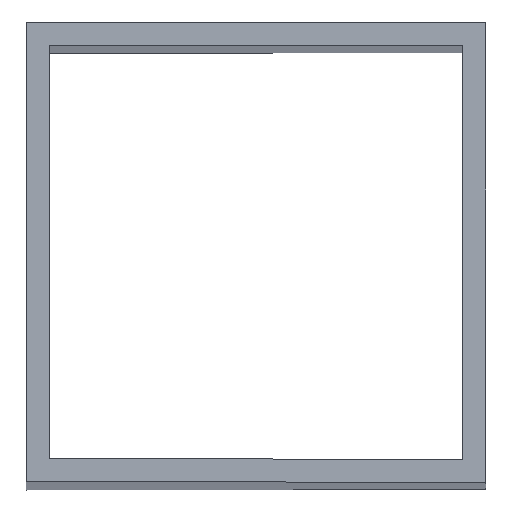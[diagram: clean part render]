
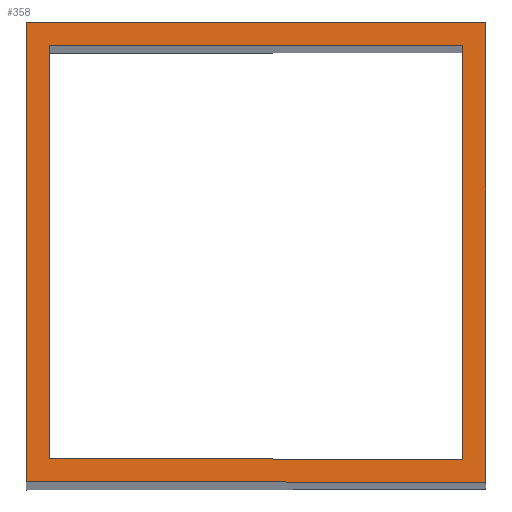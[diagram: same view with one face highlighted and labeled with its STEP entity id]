
A CAD part, top view. The second image highlights one B-rep face of the part: STEP entity #358.
In plain terms, the highlighted planar face has unit normal (0.707, 0, 0.707).
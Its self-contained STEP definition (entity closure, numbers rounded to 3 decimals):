
#32 = PLANE('',#33);
#33 = AXIS2_PLACEMENT_3D('',#34,#35,#36);
#34 = CARTESIAN_POINT('',(-40.,-40.,-40.));
#35 = DIRECTION('',(0.,1.,0.));
#36 = DIRECTION('',(1.,0.,0.));
#55 = VERTEX_POINT('',#56);
#56 = CARTESIAN_POINT('',(-40.,-40.,803.138));
#70 = PLANE('',#71);
#71 = AXIS2_PLACEMENT_3D('',#72,#73,#74);
#72 = CARTESIAN_POINT('',(-40.,40.,-40.));
#73 = DIRECTION('',(1.,0.,-0.));
#74 = DIRECTION('',(0.,-1.,0.));
#82 = EDGE_CURVE('',#83,#55,#85,.T.);
#83 = VERTEX_POINT('',#84);
#84 = CARTESIAN_POINT('',(40.,-40.,723.138));
#85 = SURFACE_CURVE('',#86,(#90,#96),.PCURVE_S1.);
#86 = LINE('',#87,#88);
#87 = CARTESIAN_POINT('',(381.569,-40.,381.569));
#88 = VECTOR('',#89,1.);
#89 = DIRECTION('',(-0.707,0.,0.707));
#90 = PCURVE('',#32,#91);
#91 = DEFINITIONAL_REPRESENTATION('',(#92),#95);
#92 = B_SPLINE_CURVE_WITH_KNOTS('',1,(#93,#94),.UNSPECIFIED.,.F.,.F.,(2,
    2),(483.052,596.189),.PIECEWISE_BEZIER_KNOTS.);
#93 = CARTESIAN_POINT('',(80.,-763.138));
#94 = CARTESIAN_POINT('',(0.,-843.138));
#95 = ( GEOMETRIC_REPRESENTATION_CONTEXT(2) 
PARAMETRIC_REPRESENTATION_CONTEXT() REPRESENTATION_CONTEXT('2D SPACE',''
  ) );
#96 = PCURVE('',#97,#102);
#97 = PLANE('',#98);
#98 = AXIS2_PLACEMENT_3D('',#99,#100,#101);
#99 = CARTESIAN_POINT('',(381.569,-0.,381.569));
#100 = DIRECTION('',(-0.707,0.,-0.707));
#101 = DIRECTION('',(-0.707,0.,0.707));
#102 = DEFINITIONAL_REPRESENTATION('',(#103),#106);
#103 = B_SPLINE_CURVE_WITH_KNOTS('',1,(#104,#105),.UNSPECIFIED.,.F.,.F.,
  (2,2),(483.052,596.189),.PIECEWISE_BEZIER_KNOTS.);
#104 = CARTESIAN_POINT('',(483.052,-40.));
#105 = CARTESIAN_POINT('',(596.189,-40.));
#106 = ( GEOMETRIC_REPRESENTATION_CONTEXT(2) 
PARAMETRIC_REPRESENTATION_CONTEXT() REPRESENTATION_CONTEXT('2D SPACE',''
  ) );
#122 = PLANE('',#123);
#123 = AXIS2_PLACEMENT_3D('',#124,#125,#126);
#124 = CARTESIAN_POINT('',(40.,-40.,-40.));
#125 = DIRECTION('',(-1.,0.,0.));
#126 = DIRECTION('',(0.,1.,0.));
#154 = PLANE('',#155);
#155 = AXIS2_PLACEMENT_3D('',#156,#157,#158);
#156 = CARTESIAN_POINT('',(40.,40.,-40.));
#157 = DIRECTION('',(0.,-1.,0.));
#158 = DIRECTION('',(-1.,0.,0.));
#225 = PLANE('',#226);
#226 = AXIS2_PLACEMENT_3D('',#227,#228,#229);
#227 = CARTESIAN_POINT('',(-36.,-36.,-40.));
#228 = DIRECTION('',(0.,1.,0.));
#229 = DIRECTION('',(1.,0.,0.));
#251 = PLANE('',#252);
#252 = AXIS2_PLACEMENT_3D('',#253,#254,#255);
#253 = CARTESIAN_POINT('',(-36.,36.,-40.));
#254 = DIRECTION('',(1.,0.,-0.));
#255 = DIRECTION('',(0.,-1.,0.));
#277 = PLANE('',#278);
#278 = AXIS2_PLACEMENT_3D('',#279,#280,#281);
#279 = CARTESIAN_POINT('',(36.,36.,-40.));
#280 = DIRECTION('',(0.,-1.,0.));
#281 = DIRECTION('',(-1.,0.,0.));
#301 = PLANE('',#302);
#302 = AXIS2_PLACEMENT_3D('',#303,#304,#305);
#303 = CARTESIAN_POINT('',(36.,-36.,-40.));
#304 = DIRECTION('',(-1.,0.,0.));
#305 = DIRECTION('',(0.,1.,0.));
#317 = EDGE_CURVE('',#318,#83,#320,.T.);
#318 = VERTEX_POINT('',#319);
#319 = CARTESIAN_POINT('',(40.,40.,723.138));
#320 = SURFACE_CURVE('',#321,(#325,#331),.PCURVE_S1.);
#321 = LINE('',#322,#323);
#322 = CARTESIAN_POINT('',(40.,-20.,723.138));
#323 = VECTOR('',#324,1.);
#324 = DIRECTION('',(-0.,-1.,0.));
#325 = PCURVE('',#122,#326);
#326 = DEFINITIONAL_REPRESENTATION('',(#327),#330);
#327 = B_SPLINE_CURVE_WITH_KNOTS('',1,(#328,#329),.UNSPECIFIED.,.F.,.F.,
  (2,2),(-60.,20.),.PIECEWISE_BEZIER_KNOTS.);
#328 = CARTESIAN_POINT('',(80.,-763.138));
#329 = CARTESIAN_POINT('',(0.,-763.138));
#330 = ( GEOMETRIC_REPRESENTATION_CONTEXT(2) 
PARAMETRIC_REPRESENTATION_CONTEXT() REPRESENTATION_CONTEXT('2D SPACE',''
  ) );
#331 = PCURVE('',#97,#332);
#332 = DEFINITIONAL_REPRESENTATION('',(#333),#336);
#333 = B_SPLINE_CURVE_WITH_KNOTS('',1,(#334,#335),.UNSPECIFIED.,.F.,.F.,
  (2,2),(-60.,20.),.PIECEWISE_BEZIER_KNOTS.);
#334 = CARTESIAN_POINT('',(483.052,40.));
#335 = CARTESIAN_POINT('',(483.052,-40.));
#336 = ( GEOMETRIC_REPRESENTATION_CONTEXT(2) 
PARAMETRIC_REPRESENTATION_CONTEXT() REPRESENTATION_CONTEXT('2D SPACE',''
  ) );
#358 = ADVANCED_FACE('',(#359,#405),#97,.F.);
#359 = FACE_BOUND('',#360,.F.);
#360 = EDGE_LOOP('',(#361,#384,#403,#404));
#361 = ORIENTED_EDGE('',*,*,#362,.F.);
#362 = EDGE_CURVE('',#363,#55,#365,.T.);
#363 = VERTEX_POINT('',#364);
#364 = CARTESIAN_POINT('',(-40.,40.,803.138));
#365 = SURFACE_CURVE('',#366,(#370,#377),.PCURVE_S1.);
#366 = LINE('',#367,#368);
#367 = CARTESIAN_POINT('',(-40.,40.,803.138));
#368 = VECTOR('',#369,1.);
#369 = DIRECTION('',(0.,-1.,0.));
#370 = PCURVE('',#97,#371);
#371 = DEFINITIONAL_REPRESENTATION('',(#372),#376);
#372 = LINE('',#373,#374);
#373 = CARTESIAN_POINT('',(596.189,40.));
#374 = VECTOR('',#375,1.);
#375 = DIRECTION('',(0.,-1.));
#376 = ( GEOMETRIC_REPRESENTATION_CONTEXT(2) 
PARAMETRIC_REPRESENTATION_CONTEXT() REPRESENTATION_CONTEXT('2D SPACE',''
  ) );
#377 = PCURVE('',#70,#378);
#378 = DEFINITIONAL_REPRESENTATION('',(#379),#383);
#379 = LINE('',#380,#381);
#380 = CARTESIAN_POINT('',(0.,-843.138));
#381 = VECTOR('',#382,1.);
#382 = DIRECTION('',(1.,0.));
#383 = ( GEOMETRIC_REPRESENTATION_CONTEXT(2) 
PARAMETRIC_REPRESENTATION_CONTEXT() REPRESENTATION_CONTEXT('2D SPACE',''
  ) );
#384 = ORIENTED_EDGE('',*,*,#385,.T.);
#385 = EDGE_CURVE('',#363,#318,#386,.T.);
#386 = SURFACE_CURVE('',#387,(#391,#397),.PCURVE_S1.);
#387 = LINE('',#388,#389);
#388 = CARTESIAN_POINT('',(401.569,40.,361.569));
#389 = VECTOR('',#390,1.);
#390 = DIRECTION('',(0.707,0.,-0.707));
#391 = PCURVE('',#97,#392);
#392 = DEFINITIONAL_REPRESENTATION('',(#393),#396);
#393 = B_SPLINE_CURVE_WITH_KNOTS('',1,(#394,#395),.UNSPECIFIED.,.F.,.F.,
  (2,2),(-624.473,-511.336),.PIECEWISE_BEZIER_KNOTS.);
#394 = CARTESIAN_POINT('',(596.189,40.));
#395 = CARTESIAN_POINT('',(483.052,40.));
#396 = ( GEOMETRIC_REPRESENTATION_CONTEXT(2) 
PARAMETRIC_REPRESENTATION_CONTEXT() REPRESENTATION_CONTEXT('2D SPACE',''
  ) );
#397 = PCURVE('',#154,#398);
#398 = DEFINITIONAL_REPRESENTATION('',(#399),#402);
#399 = B_SPLINE_CURVE_WITH_KNOTS('',1,(#400,#401),.UNSPECIFIED.,.F.,.F.,
  (2,2),(-624.473,-511.336),.PIECEWISE_BEZIER_KNOTS.);
#400 = CARTESIAN_POINT('',(80.,-843.138));
#401 = CARTESIAN_POINT('',(0.,-763.138));
#402 = ( GEOMETRIC_REPRESENTATION_CONTEXT(2) 
PARAMETRIC_REPRESENTATION_CONTEXT() REPRESENTATION_CONTEXT('2D SPACE',''
  ) );
#403 = ORIENTED_EDGE('',*,*,#317,.T.);
#404 = ORIENTED_EDGE('',*,*,#82,.T.);
#405 = FACE_BOUND('',#406,.F.);
#406 = EDGE_LOOP('',(#407,#430,#451,#472));
#407 = ORIENTED_EDGE('',*,*,#408,.F.);
#408 = EDGE_CURVE('',#409,#411,#413,.T.);
#409 = VERTEX_POINT('',#410);
#410 = CARTESIAN_POINT('',(36.,-36.,727.138));
#411 = VERTEX_POINT('',#412);
#412 = CARTESIAN_POINT('',(-36.,-36.,799.138));
#413 = SURFACE_CURVE('',#414,(#418,#424),.PCURVE_S1.);
#414 = LINE('',#415,#416);
#415 = CARTESIAN_POINT('',(382.569,-36.,380.569));
#416 = VECTOR('',#417,1.);
#417 = DIRECTION('',(-0.707,0.,0.707));
#418 = PCURVE('',#97,#419);
#419 = DEFINITIONAL_REPRESENTATION('',(#420),#423);
#420 = B_SPLINE_CURVE_WITH_KNOTS('',1,(#421,#422),.UNSPECIFIED.,.F.,.F.,
  (2,2),(490.123,591.946),.PIECEWISE_BEZIER_KNOTS.);
#421 = CARTESIAN_POINT('',(488.709,-36.));
#422 = CARTESIAN_POINT('',(590.532,-36.));
#423 = ( GEOMETRIC_REPRESENTATION_CONTEXT(2) 
PARAMETRIC_REPRESENTATION_CONTEXT() REPRESENTATION_CONTEXT('2D SPACE',''
  ) );
#424 = PCURVE('',#225,#425);
#425 = DEFINITIONAL_REPRESENTATION('',(#426),#429);
#426 = B_SPLINE_CURVE_WITH_KNOTS('',1,(#427,#428),.UNSPECIFIED.,.F.,.F.,
  (2,2),(490.123,591.946),.PIECEWISE_BEZIER_KNOTS.);
#427 = CARTESIAN_POINT('',(72.,-767.138));
#428 = CARTESIAN_POINT('',(0.,-839.138));
#429 = ( GEOMETRIC_REPRESENTATION_CONTEXT(2) 
PARAMETRIC_REPRESENTATION_CONTEXT() REPRESENTATION_CONTEXT('2D SPACE',''
  ) );
#430 = ORIENTED_EDGE('',*,*,#431,.F.);
#431 = EDGE_CURVE('',#432,#409,#434,.T.);
#432 = VERTEX_POINT('',#433);
#433 = CARTESIAN_POINT('',(36.,36.,727.138));
#434 = SURFACE_CURVE('',#435,(#439,#445),.PCURVE_S1.);
#435 = LINE('',#436,#437);
#436 = CARTESIAN_POINT('',(36.,-18.,727.138));
#437 = VECTOR('',#438,1.);
#438 = DIRECTION('',(-0.,-1.,0.));
#439 = PCURVE('',#97,#440);
#440 = DEFINITIONAL_REPRESENTATION('',(#441),#444);
#441 = B_SPLINE_CURVE_WITH_KNOTS('',1,(#442,#443),.UNSPECIFIED.,.F.,.F.,
  (2,2),(-54.,18.),.PIECEWISE_BEZIER_KNOTS.);
#442 = CARTESIAN_POINT('',(488.709,36.));
#443 = CARTESIAN_POINT('',(488.709,-36.));
#444 = ( GEOMETRIC_REPRESENTATION_CONTEXT(2) 
PARAMETRIC_REPRESENTATION_CONTEXT() REPRESENTATION_CONTEXT('2D SPACE',''
  ) );
#445 = PCURVE('',#301,#446);
#446 = DEFINITIONAL_REPRESENTATION('',(#447),#450);
#447 = B_SPLINE_CURVE_WITH_KNOTS('',1,(#448,#449),.UNSPECIFIED.,.F.,.F.,
  (2,2),(-54.,18.),.PIECEWISE_BEZIER_KNOTS.);
#448 = CARTESIAN_POINT('',(72.,-767.138));
#449 = CARTESIAN_POINT('',(0.,-767.138));
#450 = ( GEOMETRIC_REPRESENTATION_CONTEXT(2) 
PARAMETRIC_REPRESENTATION_CONTEXT() REPRESENTATION_CONTEXT('2D SPACE',''
  ) );
#451 = ORIENTED_EDGE('',*,*,#452,.F.);
#452 = EDGE_CURVE('',#453,#432,#455,.T.);
#453 = VERTEX_POINT('',#454);
#454 = CARTESIAN_POINT('',(-36.,36.,799.138));
#455 = SURFACE_CURVE('',#456,(#460,#466),.PCURVE_S1.);
#456 = LINE('',#457,#458);
#457 = CARTESIAN_POINT('',(400.569,36.,362.569));
#458 = VECTOR('',#459,1.);
#459 = DIRECTION('',(0.707,0.,-0.707));
#460 = PCURVE('',#97,#461);
#461 = DEFINITIONAL_REPRESENTATION('',(#462),#465);
#462 = B_SPLINE_CURVE_WITH_KNOTS('',1,(#463,#464),.UNSPECIFIED.,.F.,.F.,
  (2,2),(-617.402,-515.579),.PIECEWISE_BEZIER_KNOTS.);
#463 = CARTESIAN_POINT('',(590.532,36.));
#464 = CARTESIAN_POINT('',(488.709,36.));
#465 = ( GEOMETRIC_REPRESENTATION_CONTEXT(2) 
PARAMETRIC_REPRESENTATION_CONTEXT() REPRESENTATION_CONTEXT('2D SPACE',''
  ) );
#466 = PCURVE('',#277,#467);
#467 = DEFINITIONAL_REPRESENTATION('',(#468),#471);
#468 = B_SPLINE_CURVE_WITH_KNOTS('',1,(#469,#470),.UNSPECIFIED.,.F.,.F.,
  (2,2),(-617.402,-515.579),.PIECEWISE_BEZIER_KNOTS.);
#469 = CARTESIAN_POINT('',(72.,-839.138));
#470 = CARTESIAN_POINT('',(0.,-767.138));
#471 = ( GEOMETRIC_REPRESENTATION_CONTEXT(2) 
PARAMETRIC_REPRESENTATION_CONTEXT() REPRESENTATION_CONTEXT('2D SPACE',''
  ) );
#472 = ORIENTED_EDGE('',*,*,#473,.F.);
#473 = EDGE_CURVE('',#411,#453,#474,.T.);
#474 = SURFACE_CURVE('',#475,(#479,#485),.PCURVE_S1.);
#475 = LINE('',#476,#477);
#476 = CARTESIAN_POINT('',(-36.,18.,799.138));
#477 = VECTOR('',#478,1.);
#478 = DIRECTION('',(0.,1.,0.));
#479 = PCURVE('',#97,#480);
#480 = DEFINITIONAL_REPRESENTATION('',(#481),#484);
#481 = B_SPLINE_CURVE_WITH_KNOTS('',1,(#482,#483),.UNSPECIFIED.,.F.,.F.,
  (2,2),(-54.,18.),.PIECEWISE_BEZIER_KNOTS.);
#482 = CARTESIAN_POINT('',(590.532,-36.));
#483 = CARTESIAN_POINT('',(590.532,36.));
#484 = ( GEOMETRIC_REPRESENTATION_CONTEXT(2) 
PARAMETRIC_REPRESENTATION_CONTEXT() REPRESENTATION_CONTEXT('2D SPACE',''
  ) );
#485 = PCURVE('',#251,#486);
#486 = DEFINITIONAL_REPRESENTATION('',(#487),#490);
#487 = B_SPLINE_CURVE_WITH_KNOTS('',1,(#488,#489),.UNSPECIFIED.,.F.,.F.,
  (2,2),(-54.,18.),.PIECEWISE_BEZIER_KNOTS.);
#488 = CARTESIAN_POINT('',(72.,-839.138));
#489 = CARTESIAN_POINT('',(0.,-839.138));
#490 = ( GEOMETRIC_REPRESENTATION_CONTEXT(2) 
PARAMETRIC_REPRESENTATION_CONTEXT() REPRESENTATION_CONTEXT('2D SPACE',''
  ) );
